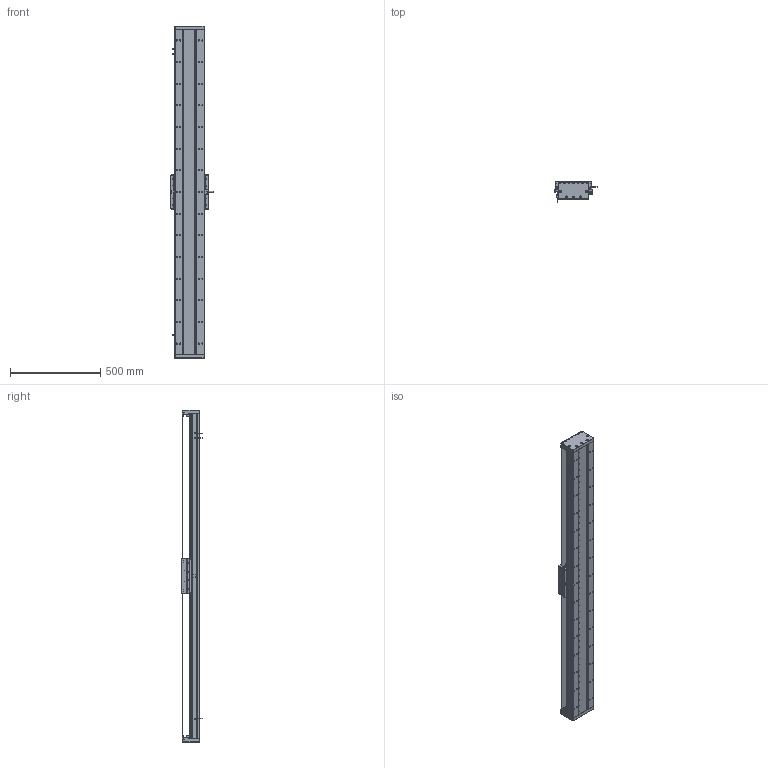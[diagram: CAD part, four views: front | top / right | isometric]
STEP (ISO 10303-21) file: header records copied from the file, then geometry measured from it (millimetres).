
FILE_DESCRIPTION (( 'STEP AP203' ), '1' );
FILE_NAME ('DA-C165-C2-T1560-C010-0.2 直线电机.STEP', '2023-05-11T07:41:00', ( '微软用户' ), ( '微软中国' ), 'SwSTEP 2.0', 'SolidWorks 2019', '' );
FILE_SCHEMA (( 'CONFIG_CONTROL_DESIGN' ));
Length unit declared in the file: millimetre
Products named in the file (18): 复件 DA95-HXJ-00 缓冲橡胶^DA-C165-C2-T-C010-0.2-N 直线电机; DA-C165-C2-T1560-C010-0.2 眻盄萇儂; 复件 DA165-GYP-00 光电感应片^DA-C165-C2-T-C010-0.2-N 直线电机; 复件 DA165-GD-DG-H-00 端盖^复件 CU165钢带组件_DA-C165-C2-T-C010-0.2-N 直线电机; IU-CU165-L 菁釱絳寢; 葩璃 PM-T45^DA-C165-C2-T-C010-0.2-N 眻盄萇儂; 复件 六角薄螺母 M3^DA-C165-C2-T-C010-0.2-N 直线电机_GB_FASTENER_NUT_STNAB M3-C; 葩璃 CKM01-W075-TRL^DA-C165-C2-T-C010-0.2-N 眻盄萇儂; IU-CU165-L-00 菁釱_L1800; 复件 XD-U-02L 磁栅尺^DA-C165-C2-T-C010-0.2-N 直线电机_T; 复件 DMA-010-0.2 读数头^DA-C165-C2-T-C010-0.2-N 直线电机; 珨极趙賑雄怢啣wf-C2; 复件 DA165-GDLK-00 钢带拉块^复件 CU165钢带组件_DA-C165-C2-T-C010-0.2-N 直线电机; 复件 DA165-GDYK-00 钢带压块^复件 CU165钢带组件_DA-C165-C2-T-C010-0.2-N 直线电机; 复件 CU165钢带组件^DA-C165-C2-T-C010-0.2-N 直线电机; 复件 DA165-GD-1860-002-00 钢带盖板^复件 CU165钢带组件_DA-C165-C2-T-C010-0.2-N 直线电机; 葩璃 DA95-GT-T-00^IU-CU165-L 菁釱絳寢_T; 复件 CKM02-W075-C1C2-TP-3.0 一体电机-C2^DA-C165-C2-T-C010-0.2-N 直线电机
Assembly tree (33 placements, depth 3):
  DA-C165-C2-T1560-C010-0.2 眻盄萇儂
    IU-CU165-L 菁釱絳寢
      IU-CU165-L-00 菁釱_L1800
      葩璃 DA95-GT-T-00^IU-CU165-L 菁釱絳寢_T  x4
    复件 XD-U-02L 磁栅尺^DA-C165-C2-T-C010-0.2-N 直线电机_T
    葩璃 PM-T45^DA-C165-C2-T-C010-0.2-N 眻盄萇儂  x3
    葩璃 CKM01-W075-TRL^DA-C165-C2-T-C010-0.2-N 眻盄萇儂
    复件 CU165钢带组件^DA-C165-C2-T-C010-0.2-N 直线电机
      复件 DA165-GD-DG-H-00 端盖^复件 CU165钢带组件_DA-C165-C2-T-C010-0.2-N 直线电机  x2
      复件 DA165-GDYK-00 钢带压块^复件 CU165钢带组件_DA-C165-C2-T-C010-0.2-N 直线电机  x2
      复件 DA165-GD-1860-002-00 钢带盖板^复件 CU165钢带组件_DA-C165-C2-T-C010-0.2-N 直线电机
      复件 DA165-GDLK-00 钢带拉块^复件 CU165钢带组件_DA-C165-C2-T-C010-0.2-N 直线电机  x2
    复件 DA95-HXJ-00 缓冲橡胶^DA-C165-C2-T-C010-0.2-N 直线电机  x4
    复件 DA165-GYP-00 光电感应片^DA-C165-C2-T-C010-0.2-N 直线电机
    复件 DMA-010-0.2 读数头^DA-C165-C2-T-C010-0.2-N 直线电机
    复件 CKM02-W075-C1C2-TP-3.0 一体电机-C2^DA-C165-C2-T-C010-0.2-N 直线电机
    复件 六角薄螺母 M3^DA-C165-C2-T-C010-0.2-N 直线电机_GB_FASTENER_NUT_STNAB M3-C  x6
    珨极趙賑雄怢啣wf-C2
Bounding box: 233 x 111.45 x 1840 mm (x, y, z)
Volume: 10858716.9 mm3; surface area: 3188546.6 mm2
Topology: 70 solids, 70 shells, 3487 faces, 9907 edges, 6279 vertices
Faces by surface type: cylinder 1933, plane 1074, cone 430, torus 46, sphere 4
Entity records: 111025 total; most frequent: CARTESIAN_POINT 28221, ORIENTED_EDGE 16986, DIRECTION 16801, EDGE_CURVE 8493, AXIS2_PLACEMENT_3D 6383, VERTEX_POINT 5515, LINE 4035, VECTOR 4035
